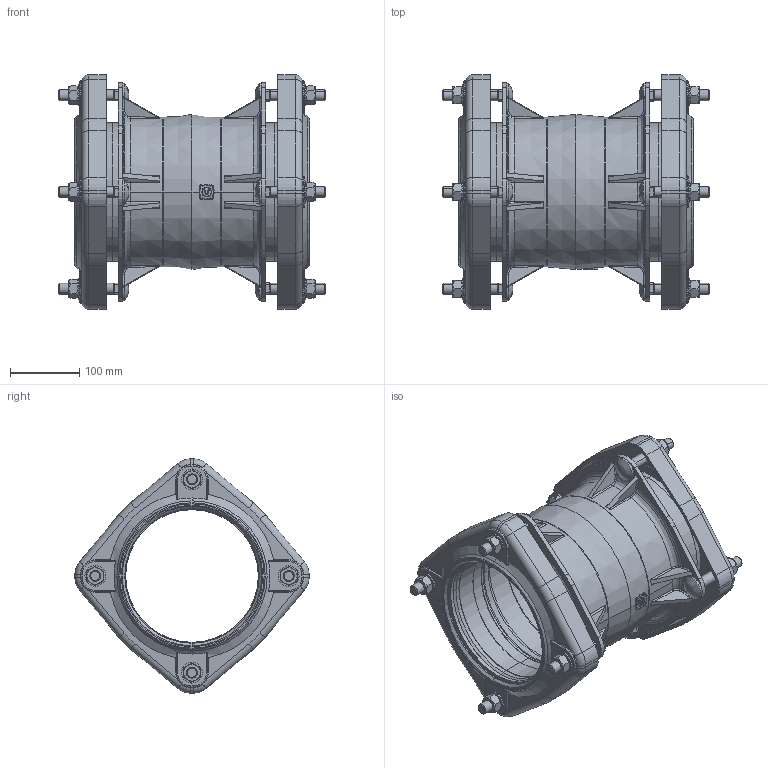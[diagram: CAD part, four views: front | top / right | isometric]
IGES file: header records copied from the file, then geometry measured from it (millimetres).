
Global section: file name: No Iges File Name specified; native system: AutoDesk Inventor R12.0; preprocessor: AutoDesk Inventor Iges Exporter R12.0; date: 20120501.154729; units: millimetre
Bounding box: 386 x 338.8 x 338.8 mm (x, y, z)
Volume: 2802762.6 mm3; surface area: 912401.7 mm2
Topology: 1 solids, 1 shells, 1717 faces, 4446 edges, 2787 vertices
Faces by surface type: plane 692, bspline 356, cylinder 239, revolution 209, cone 145, torus 76
